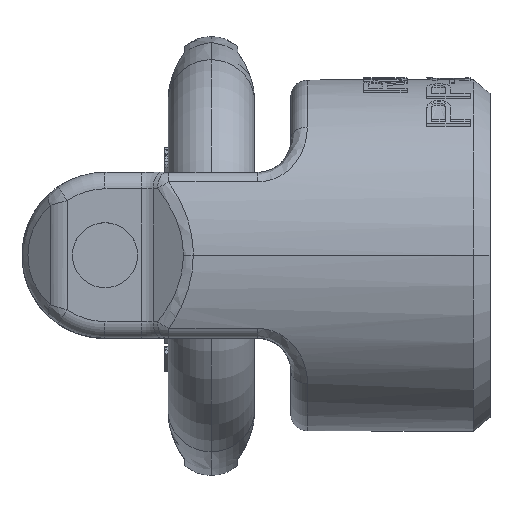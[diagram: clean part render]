
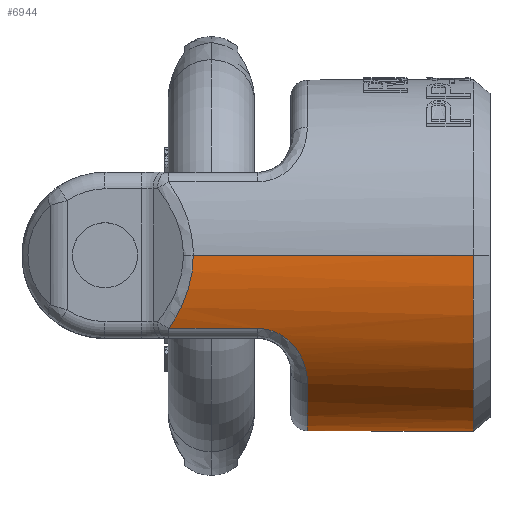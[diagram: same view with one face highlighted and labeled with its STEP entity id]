
A CAD part, top view. The second image highlights one B-rep face of the part: STEP entity #6944.
In plain terms, the highlighted cylindrical face has radius 26.5 mm (diameter 53 mm), a partial arc.
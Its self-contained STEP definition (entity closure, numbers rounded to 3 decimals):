
#950=DIRECTION('',(1.,0.,0.));
#951=VECTOR('',#950,42.196);
#952=CARTESIAN_POINT('',(25.804,0.,
-26.5));
#953=LINE('',#952,#951);
#1390=CARTESIAN_POINT('',(68.,0.,0.));
#1391=DIRECTION('',(1.,0.,0.));
#1392=DIRECTION('',(0.,0.,1.));
#1393=AXIS2_PLACEMENT_3D('',#1390,#1391,#1392);
#1395=CARTESIAN_POINT('',(22.102,-11.042,
-24.09));
#1396=CARTESIAN_POINT('',(22.536,-10.425,
-24.373));
#1397=CARTESIAN_POINT('',(23.316,-9.192,
-24.88));
#1398=CARTESIAN_POINT('',(24.232,-7.373,
-25.476));
#1399=CARTESIAN_POINT('',(24.915,-5.601,
-25.922));
#1400=CARTESIAN_POINT('',(25.403,-3.855,
-26.239));
#1401=CARTESIAN_POINT('',(25.727,-1.977,
-26.45));
#1402=CARTESIAN_POINT('',(25.804,-0.669,
-26.5));
#1403=CARTESIAN_POINT('',(25.804,0.,
-26.5));
#1405=DIRECTION('',(-1.,0.,0.));
#1406=VECTOR('',#1405,13.398);
#1407=CARTESIAN_POINT('',(35.5,-11.042,
-24.09));
#1408=LINE('',#1407,#1406);
#1409=CARTESIAN_POINT('',(43.,-19.323,-18.135));
#1410=CARTESIAN_POINT('',(43.,-18.866,
-18.622));
#1411=CARTESIAN_POINT('',(42.938,-17.93,
-19.55));
#1412=CARTESIAN_POINT('',(42.547,-16.335,
-20.897));
#1413=CARTESIAN_POINT('',(41.918,-14.953,
-21.896));
#1414=CARTESIAN_POINT('',(41.115,-13.768,
-22.655));
#1415=CARTESIAN_POINT('',(40.155,-12.777,
-23.223));
#1416=CARTESIAN_POINT('',(39.082,-12.003,
-23.63));
#1417=CARTESIAN_POINT('',(37.934,-11.449,
-23.901));
#1418=CARTESIAN_POINT('',(36.718,-11.114,
-24.057));
#1419=CARTESIAN_POINT('',(35.908,-11.042,
-24.09));
#1420=CARTESIAN_POINT('',(35.5,-11.042,
-24.09));
#1422=CARTESIAN_POINT('',(43.,0.,0.));
#1423=DIRECTION('',(1.,0.,0.));
#1424=DIRECTION('',(0.,-0.729,0.684));
#1425=AXIS2_PLACEMENT_3D('',#1422,#1423,#1424);
#1427=CARTESIAN_POINT('',(35.5,-11.042,24.09));
#1428=CARTESIAN_POINT('',(35.908,-11.042,24.09));
#1429=CARTESIAN_POINT('',(36.718,-11.114,24.057));
#1430=CARTESIAN_POINT('',(37.934,-11.449,23.901));
#1431=CARTESIAN_POINT('',(39.082,-12.003,23.63));
#1432=CARTESIAN_POINT('',(40.155,-12.778,23.223));
#1433=CARTESIAN_POINT('',(41.115,-13.768,22.654));
#1434=CARTESIAN_POINT('',(41.918,-14.953,21.896));
#1435=CARTESIAN_POINT('',(42.547,-16.335,20.897));
#1436=CARTESIAN_POINT('',(42.938,-17.93,19.55));
#1437=CARTESIAN_POINT('',(43.,-18.866,18.622));
#1438=CARTESIAN_POINT('',(43.,-19.323,18.135));
#1440=DIRECTION('',(1.,0.,0.));
#1441=VECTOR('',#1440,13.398);
#1442=CARTESIAN_POINT('',(22.102,-11.042,24.09));
#1443=LINE('',#1442,#1441);
#1444=CARTESIAN_POINT('',(25.804,0.,
26.5));
#1445=CARTESIAN_POINT('',(25.804,-0.587,
26.5));
#1446=CARTESIAN_POINT('',(25.743,-1.763,26.46));
#1447=CARTESIAN_POINT('',(25.481,-3.484,26.29));
#1448=CARTESIAN_POINT('',(25.023,-5.278,25.991));
#1449=CARTESIAN_POINT('',(24.334,-7.15,25.543));
#1450=CARTESIAN_POINT('',(23.374,-9.099,24.918));
#1451=CARTESIAN_POINT('',(22.558,-10.395,24.386));
#1452=CARTESIAN_POINT('',(22.102,-11.042,24.09));
#1454=DIRECTION('',(1.,0.,0.));
#1455=VECTOR('',#1454,42.196);
#1456=CARTESIAN_POINT('',(25.804,0.,
26.5));
#1457=LINE('',#1456,#1455);
#4608=CARTESIAN_POINT('',(25.804,0.,26.5));
#4610=VERTEX_POINT('',#4608);
#4612=CARTESIAN_POINT('',(25.804,0.,
-26.5));
#4614=VERTEX_POINT('',#4612);
#4618=VERTEX_POINT('',#1427);
#4619=VERTEX_POINT('',#1438);
#4620=CARTESIAN_POINT('',(22.102,-11.042,24.09));
#4621=VERTEX_POINT('',#4620);
#4644=VERTEX_POINT('',#1409);
#4645=VERTEX_POINT('',#1420);
#4650=CARTESIAN_POINT('',(22.102,-11.042,
-24.09));
#4651=VERTEX_POINT('',#4650);
#5478=CARTESIAN_POINT('',(68.,0.,-26.5));
#5480=VERTEX_POINT('',#5478);
#5483=CARTESIAN_POINT('',(68.,0.,26.5));
#5485=VERTEX_POINT('',#5483);
#6920=CARTESIAN_POINT('',(0.,0.,0.));
#6921=DIRECTION('',(1.,0.,0.));
#6922=DIRECTION('',(0.,0.,-1.));
#6923=AXIS2_PLACEMENT_3D('',#6920,#6921,#6922);
#6924=CYLINDRICAL_SURFACE('',#6923,26.5);
#6925=ORIENTED_EDGE('',*,*,#5510,.T.);
#6926=ORIENTED_EDGE('',*,*,#5563,.F.);
#6928=ORIENTED_EDGE('',*,*,#6927,.F.);
#6930=ORIENTED_EDGE('',*,*,#6929,.F.);
#6932=ORIENTED_EDGE('',*,*,#6931,.F.);
#6934=ORIENTED_EDGE('',*,*,#6933,.F.);
#6936=ORIENTED_EDGE('',*,*,#6935,.F.);
#6938=ORIENTED_EDGE('',*,*,#6937,.F.);
#6940=ORIENTED_EDGE('',*,*,#6939,.F.);
#6941=ORIENTED_EDGE('',*,*,#5547,.T.);
#6942=EDGE_LOOP('',(#6925,#6926,#6928,#6930,#6932,#6934,#6936,#6938,#6940,
#6941));
#6943=FACE_OUTER_BOUND('',#6942,.F.);
#6944=ADVANCED_FACE('',(#6943),#6924,.T.);
#1394=CIRCLE('',#1393,26.5);
#1404=B_SPLINE_CURVE_WITH_KNOTS('',3,(#1395,#1396,#1397,#1398,#1399,#1400,#1401,
#1402,#1403),.UNSPECIFIED.,.F.,.F.,(4,1,1,1,1,1,4),(0.,0.167,
0.333,0.5,0.667,0.833,1.),
.UNSPECIFIED.);
#1421=B_SPLINE_CURVE_WITH_KNOTS('',3,(#1409,#1410,#1411,#1412,#1413,#1414,#1415,
#1416,#1417,#1418,#1419,#1420),.UNSPECIFIED.,.F.,.F.,(4,1,1,1,1,1,1,1,1,4),
(0.,0.111,0.222,0.333,0.444,
0.556,0.667,0.778,0.889,1.),
.UNSPECIFIED.);
#1426=CIRCLE('',#1425,26.5);
#1439=B_SPLINE_CURVE_WITH_KNOTS('',3,(#1427,#1428,#1429,#1430,#1431,#1432,#1433,
#1434,#1435,#1436,#1437,#1438),.UNSPECIFIED.,.F.,.F.,(4,1,1,1,1,1,1,1,1,4),
(0.,0.111,0.222,0.333,0.444,
0.556,0.667,0.778,0.889,1.),
.UNSPECIFIED.);
#1453=B_SPLINE_CURVE_WITH_KNOTS('',3,(#1444,#1445,#1446,#1447,#1448,#1449,#1450,
#1451,#1452),.UNSPECIFIED.,.F.,.F.,(4,1,1,1,1,1,4),(0.,0.167,
0.333,0.5,0.667,0.833,1.),
.UNSPECIFIED.);
#5510=EDGE_CURVE('',#5485,#5480,#1394,.T.);
#5547=EDGE_CURVE('',#4610,#5485,#1457,.T.);
#5563=EDGE_CURVE('',#4614,#5480,#953,.T.);
#6927=EDGE_CURVE('',#4651,#4614,#1404,.T.);
#6929=EDGE_CURVE('',#4645,#4651,#1408,.T.);
#6931=EDGE_CURVE('',#4644,#4645,#1421,.T.);
#6933=EDGE_CURVE('',#4619,#4644,#1426,.T.);
#6935=EDGE_CURVE('',#4618,#4619,#1439,.T.);
#6937=EDGE_CURVE('',#4621,#4618,#1443,.T.);
#6939=EDGE_CURVE('',#4610,#4621,#1453,.T.);
